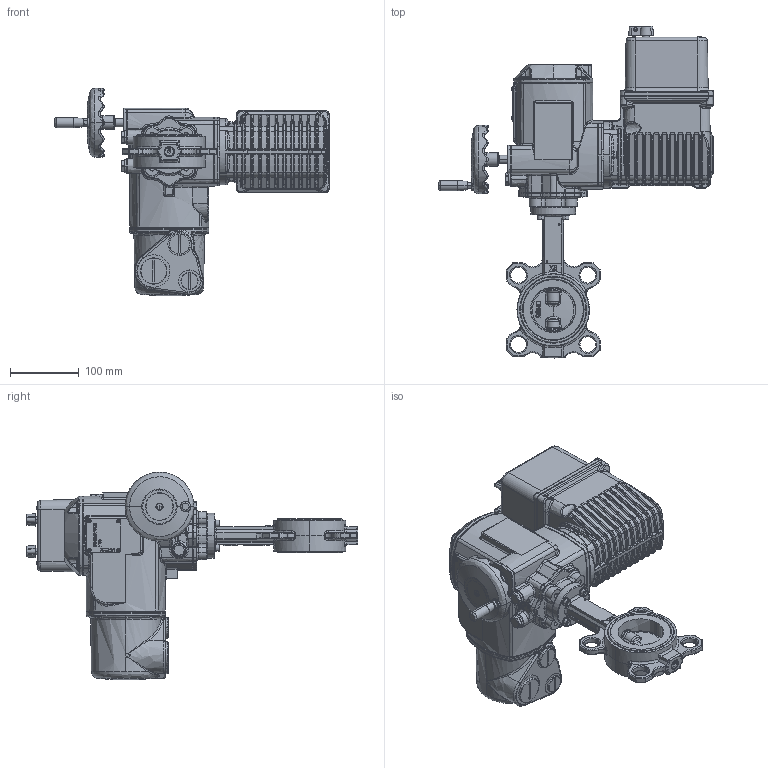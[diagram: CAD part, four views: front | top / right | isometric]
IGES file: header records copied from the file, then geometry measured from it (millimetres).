
Start section: SolidWorks IGES file using NURBS representation for surfaces
Global section: file name: H:\BE BIBLIOTHEQUE 3D\Projet_Biblio3D_2016\FSK\VPI\VPI-U24\VPI-U24 DN65.Igs; native system: SolidWorks 2014; preprocessor: SolidWorks 2014; author: a.cartier; date: 160929.181518; units: millimetre
Bounding box: 398.75 x 482.65 x 301.72 mm (x, y, z)
Volume: 7323193.4 mm3; surface area: 594943 mm2
Topology: 46 solids, 48 shells, 4578 faces, 11212 edges, 6545 vertices
Faces by surface type: bspline 4578
